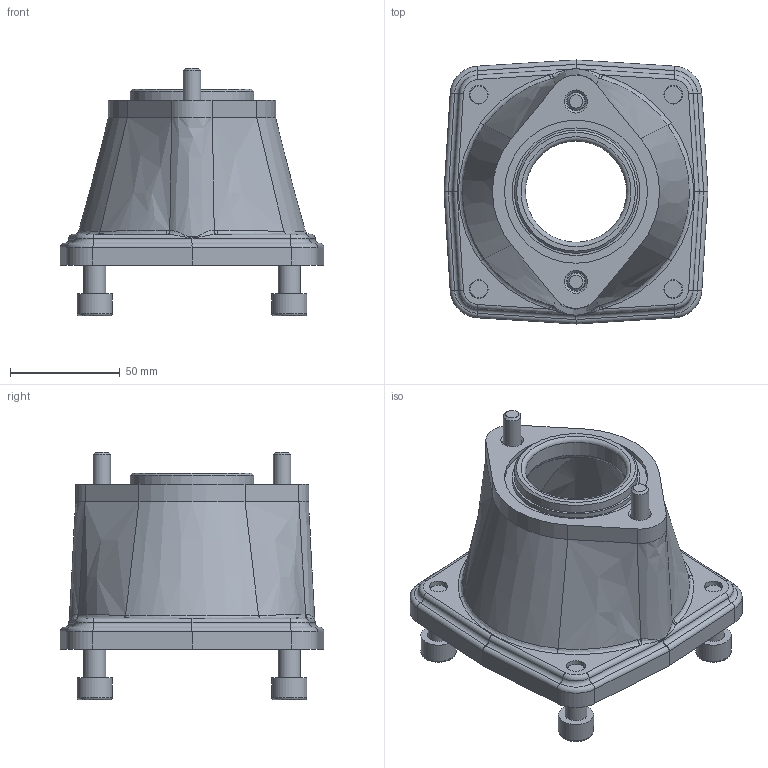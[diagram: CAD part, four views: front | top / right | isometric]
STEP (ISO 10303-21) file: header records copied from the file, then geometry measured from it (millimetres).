
FILE_DESCRIPTION(/* description */ (''),/* implementation_level */ '2;1');
FILE_NAME(/* name */ '3000010100_Semplifica_1.stp',/* time_stamp */ '2023-03-23T11:17:26+01:00',/* author */ ('marcop'),/* organization */ (''),/* preprocessor_version */ 'ST-DEVELOPER v19.2',/* originating_system */ 'Autodesk Inventor 2023',/* authorisation */ '');
FILE_SCHEMA (('AUTOMOTIVE_DESIGN { 1 0 10303 214 3 1 1 }'));
Length unit declared in the file: inch
Products named in the file (1): 3000010100_Semplifica_1
Bounding box: 120 x 120 x 112.5 mm (x, y, z)
Volume: 206292.3 mm3; surface area: 69975.9 mm2
Topology: 1 solids, 1 shells, 275 faces, 665 edges, 417 vertices
Faces by surface type: plane 119, cylinder 59, cone 50, bspline 24, torus 23
Full cylindrical faces by diameter (mm): 8 x2, 8.5 x6, 10 x4, 13 x2, 13.5 x2, 16 x4, 46 x1, 56 x1, 58 x1, 62 x1, 65 x1, 100 x1, 107 x1
Entity records: 9084 total; most frequent: CARTESIAN_POINT 2545, ORIENTED_EDGE 1318, DIRECTION 1275, EDGE_CURVE 659, AXIS2_PLACEMENT_3D 497, VERTEX_POINT 417, EDGE_LOOP 308, LINE 281
